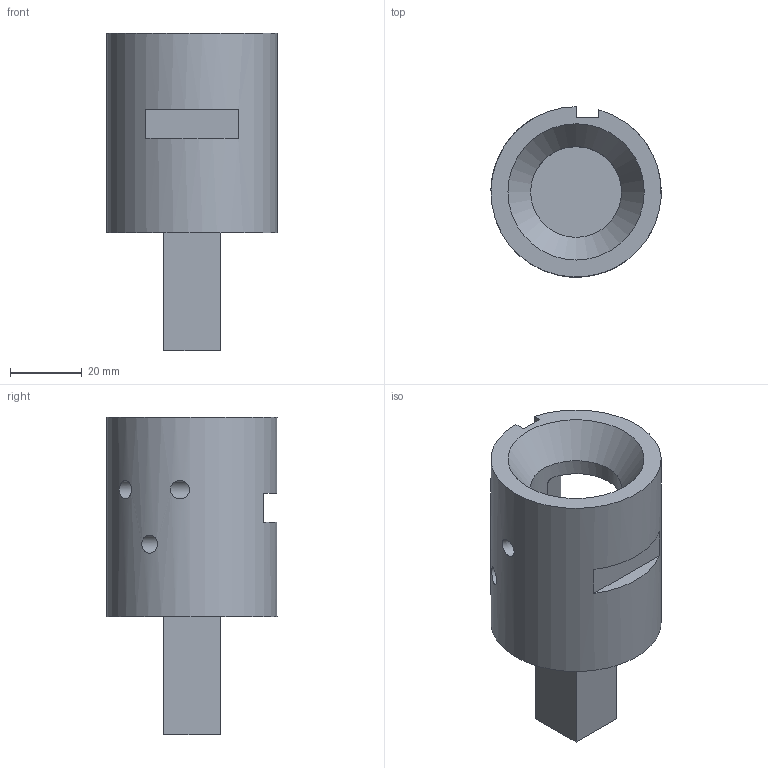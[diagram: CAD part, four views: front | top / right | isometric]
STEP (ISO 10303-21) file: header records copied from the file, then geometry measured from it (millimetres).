
FILE_DESCRIPTION((''),'2;1');
FILE_NAME('G:\advanced cnc class\Mastercam solids\STEP files\Week 3 Model prep .stp','2024-02-05T12:32:20',(''),(''),'STEP Write','Mastercam 2022 ... CNC Software, Inc.','');
FILE_SCHEMA(('AUTOMOTIVE_DESIGN'));
Length unit declared in the file: inch
Products named in the file (1): None
Bounding box: 47.55 x 47.6 x 88.9 mm (x, y, z)
Volume: 76341.2 mm3; surface area: 17973.7 mm2
Topology: 1 solids, 1 shells, 28 faces, 75 edges, 51 vertices
Faces by surface type: plane 18, cylinder 9, bspline 1
Full cylindrical faces by diameter (mm): 5.08 x3, 25.4 x1
Entity records: 1336 total; most frequent: CARTESIAN_POINT 639, ORIENTED_EDGE 126, DIRECTION 118, EDGE_CURVE 63, VERTEX_POINT 45, EDGE_LOOP 44, AXIS2_PLACEMENT_3D 40, VECTOR 38
